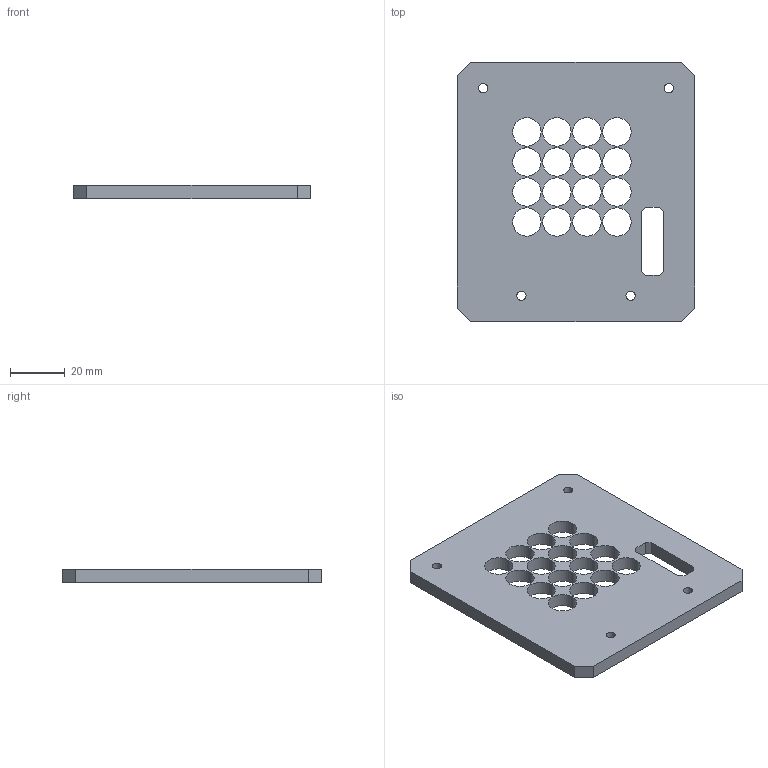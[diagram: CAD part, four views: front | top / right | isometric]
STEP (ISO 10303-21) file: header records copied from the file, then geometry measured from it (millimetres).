
FILE_DESCRIPTION (( 'STEP AP203' ), '1' );
FILE_NAME ('01_array_alignment_jig.step', '2026-10-06T17:14:08', ( '' ), ( '' ), 'SwSTEP 2.0', 'SolidWorks 2025', '' );
FILE_SCHEMA (( 'CONFIG_CONTROL_DESIGN' ));
Length unit declared in the file: millimetre
Products named in the file (1): 01_array_alignment_jig
Bounding box: 87 x 95 x 5 mm (x, y, z)
Volume: 33120 mm3; surface area: 18149.3 mm2
Topology: 1 solids, 1 shells, 58 faces, 168 edges, 112 vertices
Faces by surface type: cylinder 40, plane 18
Entity records: 2113 total; most frequent: DIRECTION 366, CARTESIAN_POINT 339, ORIENTED_EDGE 336, EDGE_CURVE 168, AXIS2_PLACEMENT_3D 139, VERTEX_POINT 112, EDGE_LOOP 100, LINE 88
